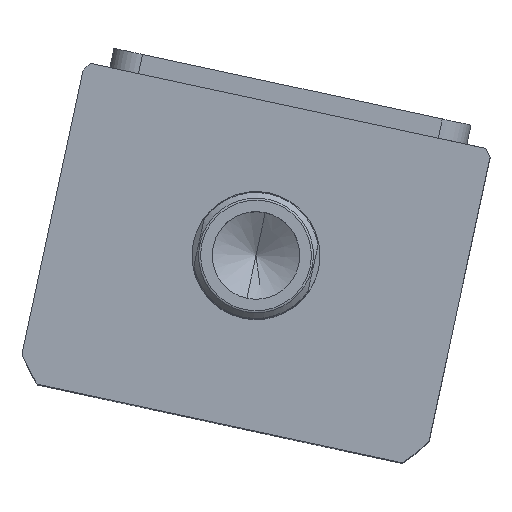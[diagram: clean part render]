
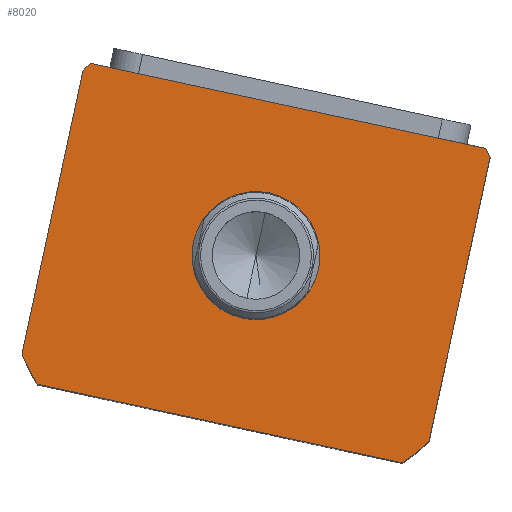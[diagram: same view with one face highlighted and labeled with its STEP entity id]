
A CAD part, top view. The second image highlights one B-rep face of the part: STEP entity #8020.
In plain terms, the highlighted planar face has unit normal (0, 0, 1) as drawn and (0, 0, -1) by its records, which use the part's own axes.
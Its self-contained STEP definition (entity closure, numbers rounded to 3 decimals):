
#96 = ORIENTED_EDGE ( 'NONE', *, *, #14876, .F. ) ;
#100 = CARTESIAN_POINT ( 'NONE',  ( 51.198, -44.5, 0. ) ) ;
#261 = VERTEX_POINT ( 'NONE', #100 ) ;
#451 = DIRECTION ( 'NONE',  ( 0., -1., 0. ) ) ;
#471 = VERTEX_POINT ( 'NONE', #11665 ) ;
#512 = ORIENTED_EDGE ( 'NONE', *, *, #3841, .F. ) ;
#605 = CIRCLE ( 'NONE', #5058, 69.5 ) ;
#969 = CARTESIAN_POINT ( 'NONE',  ( -17.5, 2.5, 0. ) ) ;
#1137 = CARTESIAN_POINT ( 'NONE',  ( 0., 2.5, 0. ) ) ;
#1305 = ORIENTED_EDGE ( 'NONE', *, *, #6932, .F. ) ;
#2613 = DIRECTION ( 'NONE',  ( 1., 0., 0. ) ) ;
#2615 = VERTEX_POINT ( 'NONE', #13490 ) ;
#2752 = EDGE_CURVE ( 'NONE', #3647, #17533, #605, .T. ) ;
#3064 = CARTESIAN_POINT ( 'NONE',  ( 0., 2.5, 0. ) ) ;
#3428 = ORIENTED_EDGE ( 'NONE', *, *, #19018, .T. ) ;
#3647 = VERTEX_POINT ( 'NONE', #15559 ) ;
#3780 = DIRECTION ( 'NONE',  ( 0., 0., 1. ) ) ;
#3787 = AXIS2_PLACEMENT_3D ( 'NONE', #18013, #6362, #16604 ) ;
#3841 = EDGE_CURVE ( 'NONE', #17867, #4857, #10699, .T. ) ;
#4033 = CARTESIAN_POINT ( 'NONE',  ( 57., 42.265, 0. ) ) ;
#4043 = VECTOR ( 'NONE', #5859, 1000. ) ;
#4257 = EDGE_CURVE ( 'NONE', #7110, #17867, #11862, .T. ) ;
#4553 = DIRECTION ( 'NONE',  ( 1., 0., 0. ) ) ;
#4857 = VERTEX_POINT ( 'NONE', #11920 ) ;
#5007 = CARTESIAN_POINT ( 'NONE',  ( 0., 2.5, 0. ) ) ;
#5045 = ORIENTED_EDGE ( 'NONE', *, *, #2752, .F. ) ;
#5058 = AXIS2_PLACEMENT_3D ( 'NONE', #5007, #15274, #6493 ) ;
#5115 = VECTOR ( 'NONE', #18551, 1000. ) ;
#5357 = CIRCLE ( 'NONE', #15966, 17.5 ) ;
#5859 = DIRECTION ( 'NONE',  ( 0., 1., 0. ) ) ;
#6042 = LINE ( 'NONE', #18620, #5115 ) ;
#6274 = AXIS2_PLACEMENT_3D ( 'NONE', #3064, #13330, #4553 ) ;
#6305 = PLANE ( 'NONE',  #3787 ) ;
#6362 = DIRECTION ( 'NONE',  ( 0., 0., 1. ) ) ;
#6399 = ORIENTED_EDGE ( 'NONE', *, *, #13065, .F. ) ;
#6428 = ORIENTED_EDGE ( 'NONE', *, *, #13310, .T. ) ;
#6493 = DIRECTION ( 'NONE',  ( 1., 0., 0. ) ) ;
#6747 = VECTOR ( 'NONE', #451, 1000. ) ;
#6808 = DIRECTION ( 'NONE',  ( 0., 0., 1. ) ) ;
#6932 = EDGE_CURVE ( 'NONE', #261, #7110, #13503, .T. ) ;
#7110 = VERTEX_POINT ( 'NONE', #18330 ) ;
#7281 = CARTESIAN_POINT ( 'NONE',  ( 57., 44.5, 0. ) ) ;
#7411 = LINE ( 'NONE', #12933, #18636 ) ;
#7914 = CARTESIAN_POINT ( 'NONE',  ( 0., 2.5, 0. ) ) ;
#8007 = CARTESIAN_POINT ( 'NONE',  ( -57., 42.265, 0. ) ) ;
#8020 = ADVANCED_FACE ( 'NONE', ( #17139, #18528 ), #6305, .F. ) ;
#8264 = VERTEX_POINT ( 'NONE', #969 ) ;
#8880 = CIRCLE ( 'NONE', #11206, 69.5 ) ;
#8977 = EDGE_LOOP ( 'NONE', ( #6428, #3428 ) ) ;
#9381 = DIRECTION ( 'NONE',  ( 1., 0., 0. ) ) ;
#10699 = CIRCLE ( 'NONE', #11619, 69.5 ) ;
#11105 = EDGE_CURVE ( 'NONE', #14753, #2615, #8880, .T. ) ;
#11120 = EDGE_LOOP ( 'NONE', ( #512, #15887, #1305, #15868, #15426, #6399, #5045, #96 ) ) ;
#11206 = AXIS2_PLACEMENT_3D ( 'NONE', #15588, #6808, #17037 ) ;
#11419 = DIRECTION ( 'NONE',  ( 0., 0., 1. ) ) ;
#11439 = AXIS2_PLACEMENT_3D ( 'NONE', #7914, #18138, #9381 ) ;
#11619 = AXIS2_PLACEMENT_3D ( 'NONE', #1137, #11419, #2613 ) ;
#11665 = CARTESIAN_POINT ( 'NONE',  ( 17.5, 2.5, 0. ) ) ;
#11862 = LINE ( 'NONE', #7281, #4043 ) ;
#11920 = CARTESIAN_POINT ( 'NONE',  ( 55.374, 44.5, 0. ) ) ;
#12586 = CARTESIAN_POINT ( 'NONE',  ( 0., 2.5, 0. ) ) ;
#12933 = CARTESIAN_POINT ( 'NONE',  ( -57., 44.5, 0. ) ) ;
#13065 = EDGE_CURVE ( 'NONE', #17533, #14753, #17959, .T. ) ;
#13310 = EDGE_CURVE ( 'NONE', #471, #8264, #5357, .T. ) ;
#13330 = DIRECTION ( 'NONE',  ( 0., 0., 1. ) ) ;
#13490 = CARTESIAN_POINT ( 'NONE',  ( -51.198, -44.5, 0. ) ) ;
#13503 = CIRCLE ( 'NONE', #11439, 69.5 ) ;
#14034 = DIRECTION ( 'NONE',  ( 1., 0., 0. ) ) ;
#14052 = EDGE_CURVE ( 'NONE', #2615, #261, #6042, .T. ) ;
#14753 = VERTEX_POINT ( 'NONE', #15672 ) ;
#14876 = EDGE_CURVE ( 'NONE', #4857, #3647, #7411, .T. ) ;
#15274 = DIRECTION ( 'NONE',  ( 0., 0., 1. ) ) ;
#15426 = ORIENTED_EDGE ( 'NONE', *, *, #11105, .F. ) ;
#15559 = CARTESIAN_POINT ( 'NONE',  ( -55.374, 44.5, 0. ) ) ;
#15588 = CARTESIAN_POINT ( 'NONE',  ( 0., 2.5, 0. ) ) ;
#15672 = CARTESIAN_POINT ( 'NONE',  ( -57., -37.265, 0. ) ) ;
#15868 = ORIENTED_EDGE ( 'NONE', *, *, #14052, .F. ) ;
#15887 = ORIENTED_EDGE ( 'NONE', *, *, #4257, .F. ) ;
#15966 = AXIS2_PLACEMENT_3D ( 'NONE', #12586, #3780, #14034 ) ;
#16604 = DIRECTION ( 'NONE',  ( 1., 0., 0. ) ) ;
#17037 = DIRECTION ( 'NONE',  ( 1., 0., 0. ) ) ;
#17139 = FACE_BOUND ( 'NONE', #8977, .T. ) ;
#17533 = VERTEX_POINT ( 'NONE', #8007 ) ;
#17867 = VERTEX_POINT ( 'NONE', #4033 ) ;
#17959 = LINE ( 'NONE', #17995, #6747 ) ;
#17995 = CARTESIAN_POINT ( 'NONE',  ( -57., 44.5, 0. ) ) ;
#18012 = CIRCLE ( 'NONE', #6274, 17.5 ) ;
#18013 = CARTESIAN_POINT ( 'NONE',  ( 0., 0., 0. ) ) ;
#18138 = DIRECTION ( 'NONE',  ( 0., 0., 1. ) ) ;
#18330 = CARTESIAN_POINT ( 'NONE',  ( 57., -37.265, 0. ) ) ;
#18528 = FACE_OUTER_BOUND ( 'NONE', #11120, .T. ) ;
#18551 = DIRECTION ( 'NONE',  ( 1., 0., 0. ) ) ;
#18620 = CARTESIAN_POINT ( 'NONE',  ( -57., -44.5, 0. ) ) ;
#18636 = VECTOR ( 'NONE', #18732, 1000. ) ;
#18732 = DIRECTION ( 'NONE',  ( -1., 0., 0. ) ) ;
#19018 = EDGE_CURVE ( 'NONE', #8264, #471, #18012, .T. ) ;
